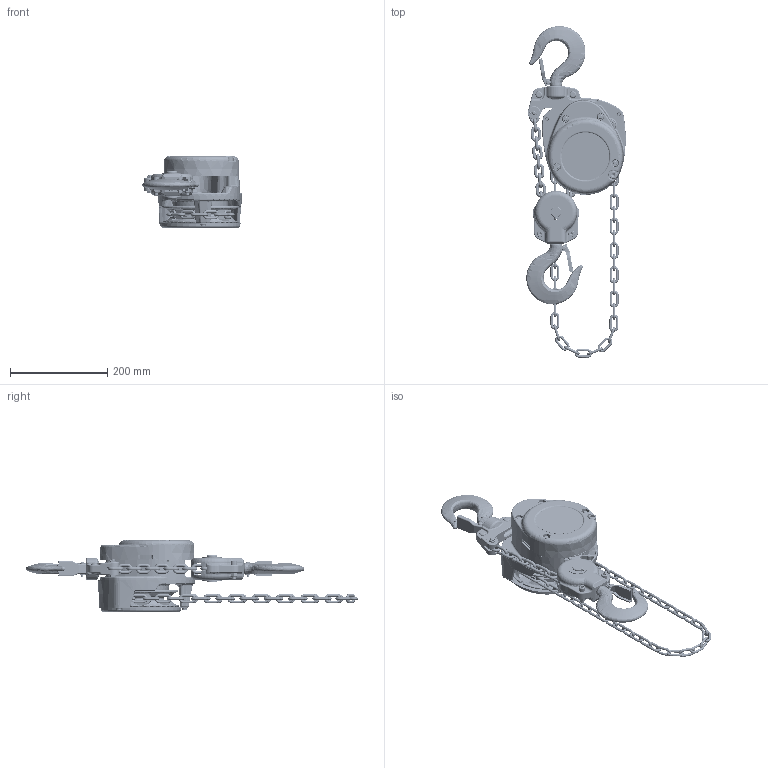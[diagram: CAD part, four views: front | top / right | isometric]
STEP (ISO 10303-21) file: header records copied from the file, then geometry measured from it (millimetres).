
FILE_DESCRIPTION (( 'STEP AP214' ), '1' );
FILE_NAME ('CF020.STEP', '2026-08-13T17:48:11', ( '' ), ( '' ), 'SwSTEP 2.0', 'SolidWorks 2026', '' );
FILE_SCHEMA (( 'AUTOMOTIVE_DESIGN' ));
Length unit declared in the file: millimetre
Products named in the file (35): 9012709_Rectangular section spring washer BS 4464 - 16 (Type B); C3BA020-20013; C1FA020-90112; CF164010; CF020; C1FA010-91021; C3BA020-90012; C2FA020-90531; HCCF005; C1FA010-91052; 80349; C1FA010-91013; C1FA010-91631; 9091282_9091282; LCCF010; C1FA020-90122; 9009411_9009411; HCCF005 FOR CF020; CF001020; CF021A020; 9098506_9098506; C2FA020-90831; C1FA020-90313; CF187005; LCCF010 (CF020)_12; C4FA010-91151; CF181010_CF181010; 9091274_9091274; M2049010; C1FA020-90411; 9091284_9091284; C1FA015-91561; CF071020; LCCF010 (CF020)_6; C2FA010-91711
Assembly tree (114 placements, depth 4):
  CF020
    C1FA010-91021
    C1FA010-91013
    C1FA010-91052
    C4FA010-91151
    C2FA010-91711
    9098506_9098506  x5
    9091284_9091284  x2
    CF181010_CF181010
    CF164010
    LCCF010 (CF020)_12
      LCCF010  x12
    9012709_Rectangular section spring washer BS 4464 - 16 (Type B)  x3
    CF187005  x3
    CF001020
      C1FA020-90112
      C1FA020-90122
      C3BA020-20013
        C3BA020-90012
        CF071020
    CF021A020
      C1FA020-90313  x2
      9091274_9091274  x2
      9098506_9098506  x2
      C3BA020-20013
        C3BA020-90012
        CF071020
      C2FA020-90531
      C2FA020-90831  x2
    C1FA020-90411
    M2049010
    9009411_9009411
    9091282_9091282  x2
    C1FA015-91561
    C1FA010-91631
    LCCF010 (CF020)_6
      LCCF010  x6
    80349
    HCCF005 FOR CF020
      HCCF005  x48
Bounding box: 204.22 x 681.62 x 146.7 mm (x, y, z)
Volume: 1849794.9 mm3; surface area: 716741.5 mm2
Topology: 110 solids, 110 shells, 5761 faces, 14876 edges, 9169 vertices
Faces by surface type: torus 1614, cylinder 1174, plane 1124, cone 929, bspline 877, sphere 43
Entity records: 276922 total; most frequent: CARTESIAN_POINT 143959, ORIENTED_EDGE 23830, DIRECTION 21251, EDGE_CURVE 11915, AXIS2_PLACEMENT_3D 8857, VERTEX_POINT 7648, CIRCLE 5005, EDGE_LOOP 4893
